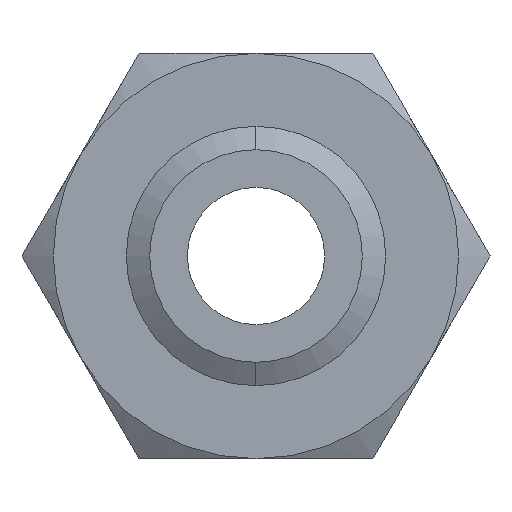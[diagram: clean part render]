
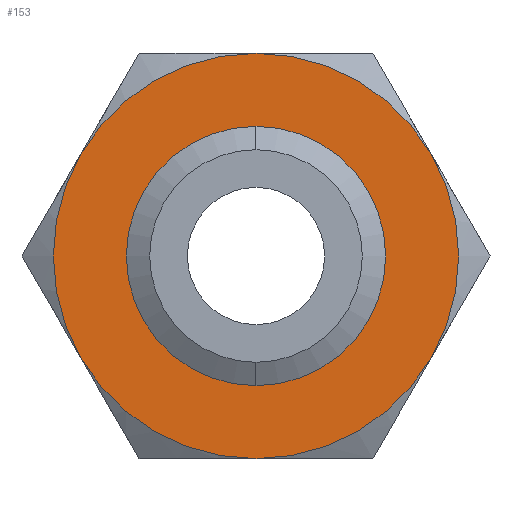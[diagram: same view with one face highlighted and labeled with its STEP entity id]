
A CAD part, front view. The second image highlights one B-rep face of the part: STEP entity #153.
In plain terms, the highlighted planar face has unit normal (0, -1, 0).
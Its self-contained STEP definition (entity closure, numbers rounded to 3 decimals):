
#98 = VERTEX_POINT ( 'NONE', #350 ) ;
#153 = ADVANCED_FACE ( 'NONE', ( #454, #453 ), #518, .F. ) ;
#154 = EDGE_LOOP ( 'NONE', ( #172, #167, #163, #1676, #1675, #1673 ) ) ;
#156 = VERTEX_POINT ( 'NONE', #513 ) ;
#157 = VERTEX_POINT ( 'NONE', #512 ) ;
#163 = ORIENTED_EDGE ( 'NONE', *, *, #164, .F. ) ;
#164 = EDGE_CURVE ( 'NONE', #98, #157, #499, .T. ) ;
#167 = ORIENTED_EDGE ( 'NONE', *, *, #168, .F. ) ;
#168 = EDGE_CURVE ( 'NONE', #157, #175, #493, .T. ) ;
#172 = ORIENTED_EDGE ( 'NONE', *, *, #173, .F. ) ;
#173 = EDGE_CURVE ( 'NONE', #175, #156, #543, .T. ) ;
#175 = VERTEX_POINT ( 'NONE', #538 ) ;
#350 = CARTESIAN_POINT ( 'NONE',  ( -32.476, 0., -18.75 ) ) ;
#453 = FACE_BOUND ( 'NONE', #1807, .T. ) ;
#454 = FACE_OUTER_BOUND ( 'NONE', #154, .T. ) ;
#489 = DIRECTION ( 'NONE',  ( 0., 0., 1. ) ) ;
#490 = DIRECTION ( 'NONE',  ( 0., 1., 0. ) ) ;
#491 = CARTESIAN_POINT ( 'NONE',  ( 0., 0., 0. ) ) ;
#492 = AXIS2_PLACEMENT_3D ( 'NONE', #491, #490, #489 ) ;
#493 = CIRCLE ( 'NONE', #492, 37.5 ) ;
#494 = DIRECTION ( 'NONE',  ( 0., 0., 1. ) ) ;
#495 = DIRECTION ( 'NONE',  ( 0., 1., 0. ) ) ;
#497 = CARTESIAN_POINT ( 'NONE',  ( 0., 0., 0. ) ) ;
#498 = AXIS2_PLACEMENT_3D ( 'NONE', #497, #495, #494 ) ;
#499 = CIRCLE ( 'NONE', #498, 37.5 ) ;
#512 = CARTESIAN_POINT ( 'NONE',  ( -32.476, 0., 18.75 ) ) ;
#513 = CARTESIAN_POINT ( 'NONE',  ( 32.476, 0., 18.75 ) ) ;
#514 = DIRECTION ( 'NONE',  ( 0., 0., 1. ) ) ;
#515 = DIRECTION ( 'NONE',  ( 0., 1., 0. ) ) ;
#516 = CARTESIAN_POINT ( 'NONE',  ( 21.651, 0., -37.5 ) ) ;
#517 = AXIS2_PLACEMENT_3D ( 'NONE', #516, #515, #514 ) ;
#518 = PLANE ( 'NONE',  #517 ) ;
#538 = CARTESIAN_POINT ( 'NONE',  ( 0., 0., 37.5 ) ) ;
#539 = DIRECTION ( 'NONE',  ( 0., 0., 1. ) ) ;
#540 = DIRECTION ( 'NONE',  ( 0., 1., 0. ) ) ;
#541 = CARTESIAN_POINT ( 'NONE',  ( 0., 0., 0. ) ) ;
#542 = AXIS2_PLACEMENT_3D ( 'NONE', #541, #540, #539 ) ;
#543 = CIRCLE ( 'NONE', #542, 37.5 ) ;
#670 = CARTESIAN_POINT ( 'NONE',  ( 0., 0., -37.5 ) ) ;
#671 = DIRECTION ( 'NONE',  ( 0., 0., 1. ) ) ;
#672 = DIRECTION ( 'NONE',  ( 0., 1., 0. ) ) ;
#673 = CARTESIAN_POINT ( 'NONE',  ( 0., 0., 0. ) ) ;
#674 = AXIS2_PLACEMENT_3D ( 'NONE', #673, #672, #671 ) ;
#675 = CIRCLE ( 'NONE', #674, 37.5 ) ;
#886 = DIRECTION ( 'NONE',  ( 0., 0., -1. ) ) ;
#887 = DIRECTION ( 'NONE',  ( 0., -1., 0. ) ) ;
#888 = CARTESIAN_POINT ( 'NONE',  ( 0., 0., 0. ) ) ;
#889 = AXIS2_PLACEMENT_3D ( 'NONE', #888, #887, #886 ) ;
#891 = CIRCLE ( 'NONE', #889, 19.67 ) ;
#939 = CARTESIAN_POINT ( 'NONE',  ( 32.476, 0., -18.75 ) ) ;
#946 = DIRECTION ( 'NONE',  ( 0., 0., 1. ) ) ;
#947 = DIRECTION ( 'NONE',  ( 0., 1., 0. ) ) ;
#948 = CARTESIAN_POINT ( 'NONE',  ( 0., 0., 0. ) ) ;
#949 = AXIS2_PLACEMENT_3D ( 'NONE', #948, #947, #946 ) ;
#950 = CIRCLE ( 'NONE', #949, 37.5 ) ;
#970 = DIRECTION ( 'NONE',  ( 0., 0., 1. ) ) ;
#971 = DIRECTION ( 'NONE',  ( 0., 1., 0. ) ) ;
#972 = CARTESIAN_POINT ( 'NONE',  ( 0., 0., 0. ) ) ;
#973 = AXIS2_PLACEMENT_3D ( 'NONE', #972, #971, #970 ) ;
#974 = CIRCLE ( 'NONE', #973, 37.5 ) ;
#1169 = DIRECTION ( 'NONE',  ( 0., 0., -1. ) ) ;
#1410 = DIRECTION ( 'NONE',  ( 0., -1., 0. ) ) ;
#1411 = CARTESIAN_POINT ( 'NONE',  ( 0., 0., 0. ) ) ;
#1412 = AXIS2_PLACEMENT_3D ( 'NONE', #1411, #1410, #1169 ) ;
#1413 = CIRCLE ( 'NONE', #1412, 19.67 ) ;
#1420 = CARTESIAN_POINT ( 'NONE',  ( 0., 0., -19.67 ) ) ;
#1426 = CARTESIAN_POINT ( 'NONE',  ( 0., 0., 19.67 ) ) ;
#1673 = ORIENTED_EDGE ( 'NONE', *, *, #1674, .F. ) ;
#1674 = EDGE_CURVE ( 'NONE', #156, #1806, #675, .T. ) ;
#1675 = ORIENTED_EDGE ( 'NONE', *, *, #1803, .F. ) ;
#1676 = ORIENTED_EDGE ( 'NONE', *, *, #1833, .F. ) ;
#1677 = VERTEX_POINT ( 'NONE', #670 ) ;
#1796 = ORIENTED_EDGE ( 'NONE', *, *, #1797, .F. ) ;
#1797 = EDGE_CURVE ( 'NONE', #2069, #2071, #891, .T. ) ;
#1803 = EDGE_CURVE ( 'NONE', #1806, #1677, #950, .T. ) ;
#1806 = VERTEX_POINT ( 'NONE', #939 ) ;
#1807 = EDGE_LOOP ( 'NONE', ( #1903, #1796 ) ) ;
#1833 = EDGE_CURVE ( 'NONE', #1677, #98, #974, .T. ) ;
#1903 = ORIENTED_EDGE ( 'NONE', *, *, #2075, .F. ) ;
#2069 = VERTEX_POINT ( 'NONE', #1426 ) ;
#2071 = VERTEX_POINT ( 'NONE', #1420 ) ;
#2075 = EDGE_CURVE ( 'NONE', #2071, #2069, #1413, .T. ) ;
